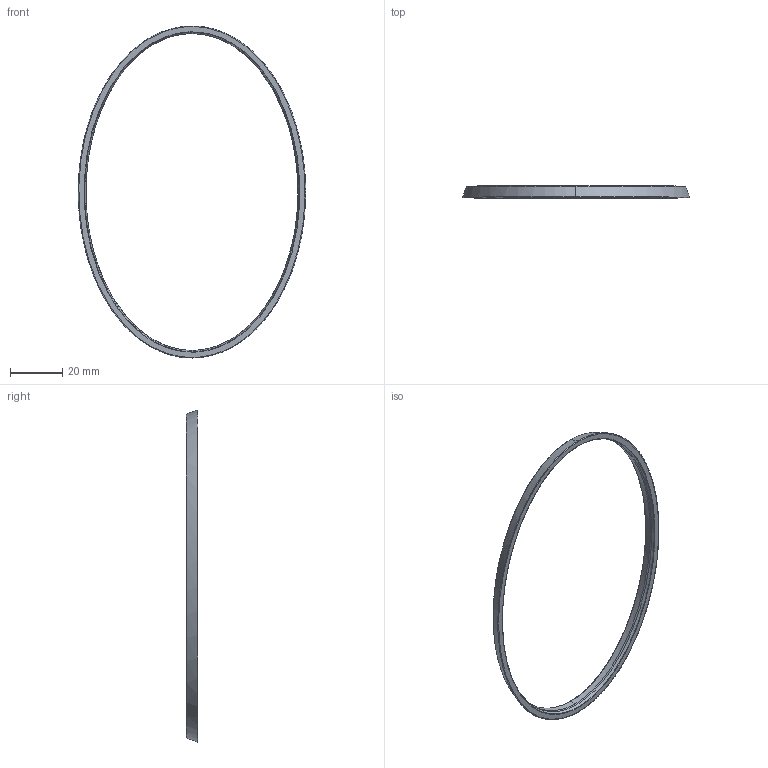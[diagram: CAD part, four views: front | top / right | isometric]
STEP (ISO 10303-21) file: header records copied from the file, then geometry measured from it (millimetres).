
FILE_DESCRIPTION (( 'STEP AP214' ), '1' );
FILE_NAME ('0.6mm Offset Sealing Band.STEP', '2021-05-07T20:29:37', ( '' ), ( '' ), 'SwSTEP 2.0', 'SolidWorks 2020', '' );
FILE_SCHEMA (( 'AUTOMOTIVE_DESIGN' ));
Length unit declared in the file: millimetre
Products named in the file (1): 0.6mm Offset Sealing Band
Bounding box: 86.98 x 4.5 x 127.01 mm (x, y, z)
Volume: 2989.6 mm3; surface area: 4202.5 mm2
Topology: 1 solids, 1 shells, 41 faces, 116 edges, 77 vertices
Faces by surface type: bspline 27, cylinder 12, plane 2
Entity records: 5852 total; most frequent: CARTESIAN_POINT 5046, ORIENTED_EDGE 232, EDGE_CURVE 116, B_SPLINE_CURVE_WITH_KNOTS 88, VERTEX_POINT 77, DIRECTION 55, EDGE_LOOP 43, ADVANCED_FACE 41
